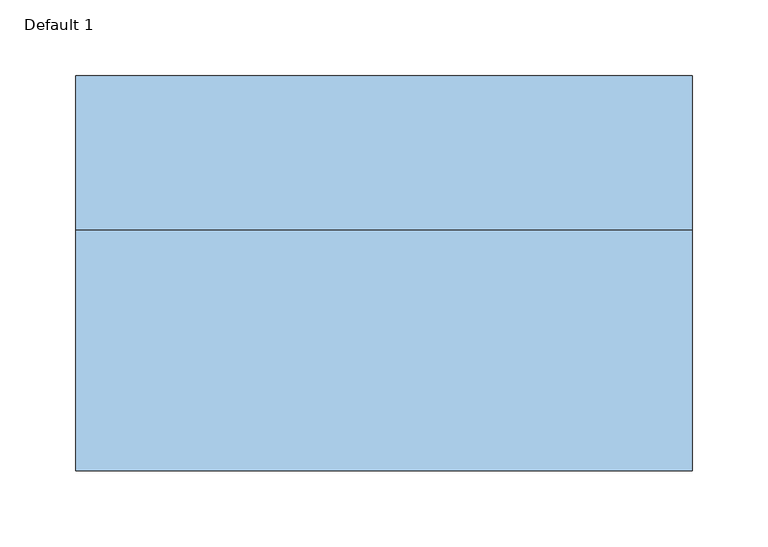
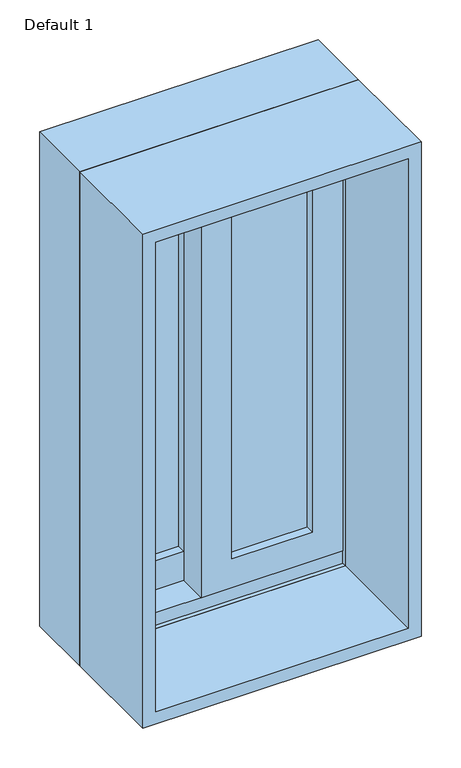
"""IFC4 building model written with IfcOpenShell, lengths in millimetres: window geometry, Planitar-Sliding-Double : Default 1."""

from ifc_helpers import new_model, si_unit, frame, origin, place, context, project, spatial, polyline, outline, extrude, faceted_brep, source, transform, mapped, element, save


def default_1_48e93cfa(model_context):
    return source(origin(), model_context, "Body", "SolidModel", [
        extrude(outline(polyline([(933.45, -184.15), (933.45, 22.225), (1657.35, 22.225), (1657.35, -184.15), (933.45, -184.15)]), holes=[polyline([(1612.9, -22.225), (996.95, -22.225), (996.95, -139.7), (1612.9, -139.7), (1612.9, -22.225)])]), frame((0.0, 85.09, 0.0), z_axis=(0.0, 1.0, 0.0), x_axis=(0.0, 0.0, 1.0)), (0.0, 0.0, 1.0), 44.45),
        extrude(outline(polyline([(952.5, 184.15), (1657.35, 184.15), (1657.35, -22.225), (952.5, -22.225), (952.5, 184.15)]), holes=[polyline([(996.95, 22.225), (1612.9, 22.225), (1612.9, 139.7), (996.95, 139.7), (996.95, 22.225)])]), frame((0.0, 40.64, 0.0), z_axis=(0.0, 1.0, 0.0), x_axis=(0.0, 0.0, 1.0)), (0.0, 0.0, 1.0), 44.45),
        faceted_brep([(-203.2, 34.29, 914.4), (-203.2, 135.89, 914.4), (203.2, 135.89, 914.4), (203.2, 34.29, 914.4), (-162.2778905, 135.89, 1635.4778905), (-162.2778905, 129.54, 1635.4778905), (-162.2778905, 129.54, 933.45), (-162.2778905, 135.89, 933.45), (162.2778905, 129.54, 1635.4778905), (162.2778905, 129.54, 933.45), (184.15, 129.54, 933.45), (184.15, 129.54, 1657.35), (-184.15, 129.54, 1657.35), (-184.15, 129.54, 933.45), (-184.15, 34.29, 1657.35), (-184.15, 34.29, 933.45), (-184.15, 40.64, 933.45), (-184.15, 40.64, 952.5), (-184.15, 85.09, 952.5), (-184.15, 85.09, 933.45), (203.2, 34.29, 1676.4), (-203.2, 34.29, 1676.4), (184.15, 34.29, 1657.35), (184.15, 34.29, 933.45), (-203.2, 135.89, 1676.4), (203.2, 135.89, 1676.4), (162.2778905, 135.89, 933.45), (162.2778905, 135.89, 1635.4778905), (184.15, 85.09, 933.45), (184.15, 85.09, 952.5), (184.15, 40.64, 952.5), (184.15, 40.64, 933.45)], [[[0, 1, 2, 3]], [[4, 5, 6, 7]], [[5, 8, 9, 10, 11, 12, 13, 6]], [[12, 14, 15, 16, 17, 18, 19, 13]], [[0, 3, 20, 21], [22, 23, 15, 14]], [[24, 1, 0, 21]], [[2, 1, 24, 25], [4, 7, 26, 27]], [[5, 4, 27, 8]], [[12, 11, 22, 14]], [[21, 20, 25, 24]], [[8, 27, 26, 9]], [[22, 11, 10, 28, 29, 30, 31, 23]], [[20, 3, 2, 25]], [[26, 7, 6, 13, 19, 28, 10, 9]], [[28, 19, 18, 29]], [[29, 18, 17, 30]], [[30, 17, 16, 31]], [[15, 23, 31, 16]]]),
        extrude(outline(polyline([(1676.4, -203.2), (914.4, -203.2), (914.4, 203.2), (1676.4, 203.2), (1676.4, -203.2)]), holes=[polyline([(1657.35, 184.15), (933.45, 184.15), (933.45, -184.15), (1657.35, -184.15), (1657.35, 184.15)])]), frame((0.0, -124.46, 0.0), z_axis=(0.0, 1.0, 0.0), x_axis=(0.0, 0.0, 1.0)), (0.0, 0.0, 1.0), 158.75),
        extrude(outline(polyline([(139.7, 72.39), (139.7, 66.04), (22.225, 66.04), (22.225, 72.39), (139.7, 72.39)])), frame((0.0, 0.0, 996.95), z_axis=(0.0, 0.0, 1.0), x_axis=(1.0, 0.0, 0.0)), (0.0, 0.0, 1.0), 615.95),
        extrude(outline(polyline([(139.7, 59.69), (139.7, 53.34), (22.225, 53.34), (22.225, 59.69), (139.7, 59.69)])), frame((0.0, 0.0, 996.95), z_axis=(0.0, 0.0, 1.0), x_axis=(1.0, 0.0, 0.0)), (0.0, 0.0, 1.0), 615.95),
        extrude(outline(polyline([(-22.225, 116.84), (-22.225, 110.49), (-139.7, 110.49), (-139.7, 116.84), (-22.225, 116.84)])), frame((0.0, 0.0, 996.95), z_axis=(0.0, 0.0, 1.0), x_axis=(1.0, 0.0, 0.0)), (0.0, 0.0, 1.0), 615.95),
        extrude(outline(polyline([(-22.225, 104.14), (-22.225, 97.79), (-139.7, 97.79), (-139.7, 104.14), (-22.225, 104.14)])), frame((0.0, 0.0, 996.95), z_axis=(0.0, 0.0, 1.0), x_axis=(1.0, 0.0, 0.0)), (0.0, 0.0, 1.0), 615.95),
    ])


if __name__ == "__main__":
    model = new_model("IFC4")
    model_context = context("Model", 3, world=origin())
    ifc_project = project(units=[si_unit("LENGTHUNIT", "METRE", prefix="MILLI")], contexts=[model_context])
    site = spatial("IfcSite", under=ifc_project)
    building = spatial("IfcBuilding", under=site)
    placement = place(None, origin())
    default_1_shape = default_1_48e93cfa(model_context)
    element("IfcWindow", 1, ObjectType="Planitar-Sliding-Double : Default 1", at=placement, inside=building, context=model_context, shape_type="MappedRepresentation", body=[
        mapped(default_1_shape, transform((0.0, 0.0, 0.0), x_axis=(1.0, 0.0, 0.0), y_axis=(0.0, 1.0, 0.0), z_axis=(0.0, 0.0, 1.0))),
    ])
    save(model, "model.ifc")
